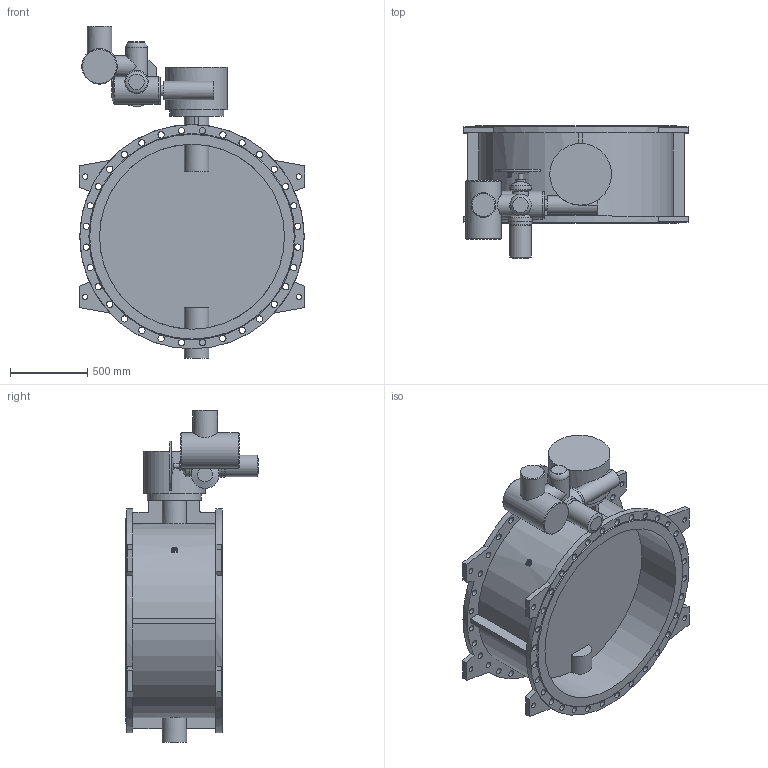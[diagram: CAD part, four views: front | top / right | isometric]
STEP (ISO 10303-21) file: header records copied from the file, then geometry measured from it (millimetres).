
FILE_DESCRIPTION(('STEP AP203'), '1');
FILE_NAME('Çàòâîð 023F.Z DN1200 PN10 + ðåäóêòîð + ÌÒ903.À30 ñ ÁÓ', '', ('UNSPECIFIED'), ('UNSPECIFIED'), 'ASCON STEP Converter 1.6', 'ASCON Math Kernel', '');
FILE_SCHEMA(('CONFIG_CONTROL_DESIGN'));
Length unit declared in the file: millimetre
Bounding box: 1466 x 859 x 2154 mm (x, y, z)
Volume: 298848705.7 mm3; surface area: 11525011.7 mm2
Topology: 1 solids, 1 shells, 270 faces, 662 edges, 436 vertices
Faces by surface type: cylinder 140, plane 116, cone 13, torus 1
Full cylindrical faces by diameter (mm): 14 x4, 18 x12, 23 x8, 32 x1, 35 x8, 41 x64, 60 x1, 70 x1, 100 x1, 120 x1, 140 x4, 147 x1, 151 x1, 160 x2, 175 x1, 180 x1, 230 x1, 350 x1, 400 x1, 1200 x2, 1455 x2
Entity records: 12057 total; most frequent: CARTESIAN_POINT 3533, DIRECTION 1323, ORIENTED_EDGE 1056, EDGE_LOOP 587, AXIS2_PLACEMENT_3D 566, EDGE_CURVE 528, VERTEX_POINT 435, FACE_BOUND 336
